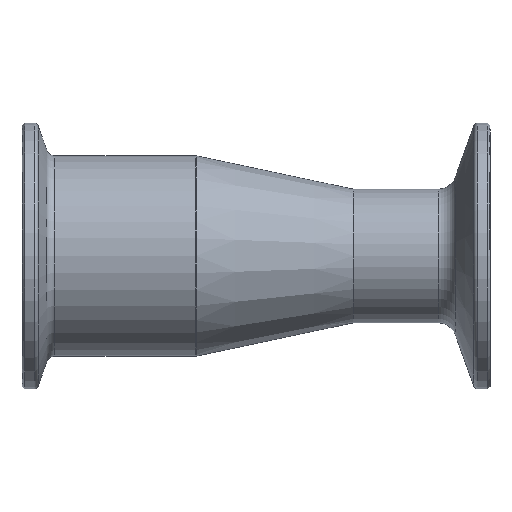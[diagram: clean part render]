
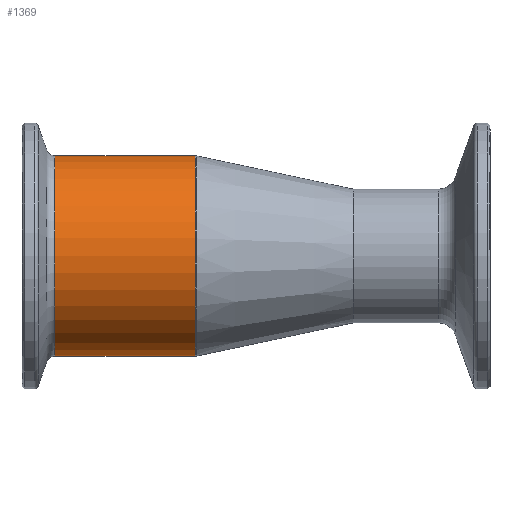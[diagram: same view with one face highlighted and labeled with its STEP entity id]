
A CAD part, top view. The second image highlights one B-rep face of the part: STEP entity #1369.
In plain terms, the highlighted cylindrical face has radius 19.05 mm (diameter 38.1 mm), a partial arc.
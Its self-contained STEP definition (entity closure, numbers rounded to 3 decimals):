
#8 = CARTESIAN_POINT ( 'NONE',  ( -55.964, -19.05, 0. ) ) ;
#159 = DIRECTION ( 'NONE',  ( 1., 0., 0. ) ) ;
#356 = AXIS2_PLACEMENT_3D ( 'NONE', #646, #643, #527 ) ;
#365 = AXIS2_PLACEMENT_3D ( 'NONE', #1321, #1334, #522 ) ;
#394 = CARTESIAN_POINT ( 'NONE',  ( 0., -19.05, 0. ) ) ;
#461 = CYLINDRICAL_SURFACE ( 'NONE', #1476, 19.05 ) ;
#492 = CIRCLE ( 'NONE', #365, 19.05 ) ;
#522 = DIRECTION ( 'NONE',  ( 0., 1., 0. ) ) ;
#527 = DIRECTION ( 'NONE',  ( 0., -1., 0. ) ) ;
#532 = CIRCLE ( 'NONE', #356, 19.05 ) ;
#643 = DIRECTION ( 'NONE',  ( -1., 0., 0. ) ) ;
#646 = CARTESIAN_POINT ( 'NONE',  ( -55.964, 0., 0. ) ) ;
#678 = CARTESIAN_POINT ( 'NONE',  ( -55.964, 19.05, 0. ) ) ;
#680 = VECTOR ( 'NONE', #159, 1000. ) ;
#726 = VERTEX_POINT ( 'NONE', #678 ) ;
#814 = CARTESIAN_POINT ( 'NONE',  ( 0., 19.05, 0. ) ) ;
#866 = VECTOR ( 'NONE', #878, 1000. ) ;
#878 = DIRECTION ( 'NONE',  ( 1., 0., 0. ) ) ;
#915 = CARTESIAN_POINT ( 'NONE',  ( -82.673, -19.05, 0. ) ) ;
#945 = LINE ( 'NONE', #394, #680 ) ;
#1015 = EDGE_LOOP ( 'NONE', ( #1212, #1237, #1277, #1381 ) ) ;
#1204 = FACE_OUTER_BOUND ( 'NONE', #1015, .T. ) ;
#1212 = ORIENTED_EDGE ( 'NONE', *, *, #1368, .T. ) ;
#1231 = LINE ( 'NONE', #814, #866 ) ;
#1237 = ORIENTED_EDGE ( 'NONE', *, *, #1534, .T. ) ;
#1256 = EDGE_CURVE ( 'NONE', #1296, #726, #1231, .T. ) ;
#1277 = ORIENTED_EDGE ( 'NONE', *, *, #1414, .T. ) ;
#1296 = VERTEX_POINT ( 'NONE', #1697 ) ;
#1321 = CARTESIAN_POINT ( 'NONE',  ( -82.673, 0., 0. ) ) ;
#1334 = DIRECTION ( 'NONE',  ( 1., 0., 0. ) ) ;
#1368 = EDGE_CURVE ( 'NONE', #1296, #1574, #492, .T. ) ;
#1369 = ADVANCED_FACE ( 'NONE', ( #1204 ), #461, .T. ) ;
#1381 = ORIENTED_EDGE ( 'NONE', *, *, #1256, .F. ) ;
#1414 = EDGE_CURVE ( 'NONE', #1509, #726, #532, .T. ) ;
#1457 = DIRECTION ( 'NONE',  ( 0., 1., 0. ) ) ;
#1476 = AXIS2_PLACEMENT_3D ( 'NONE', #1605, #1722, #1457 ) ;
#1509 = VERTEX_POINT ( 'NONE', #8 ) ;
#1534 = EDGE_CURVE ( 'NONE', #1574, #1509, #945, .T. ) ;
#1574 = VERTEX_POINT ( 'NONE', #915 ) ;
#1605 = CARTESIAN_POINT ( 'NONE',  ( 0., 0., 0. ) ) ;
#1697 = CARTESIAN_POINT ( 'NONE',  ( -82.673, 19.05, 0. ) ) ;
#1722 = DIRECTION ( 'NONE',  ( 1., 0., 0. ) ) ;
